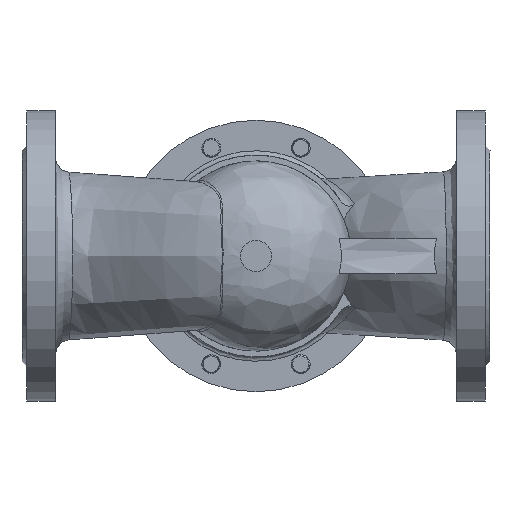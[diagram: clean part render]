
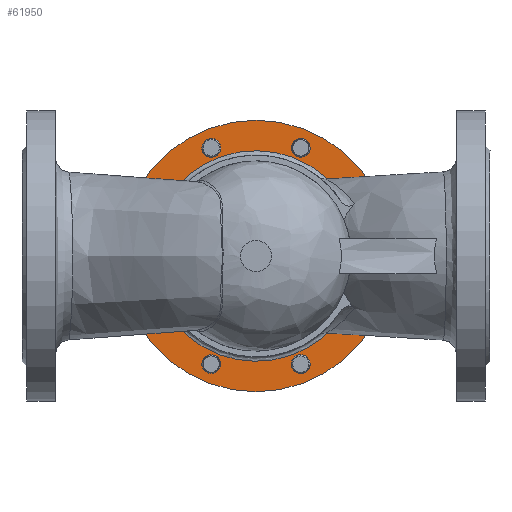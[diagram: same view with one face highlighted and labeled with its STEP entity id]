
A CAD part, front view. The second image highlights one B-rep face of the part: STEP entity #61950.
In plain terms, the highlighted planar face has unit normal (0, -1, 0).
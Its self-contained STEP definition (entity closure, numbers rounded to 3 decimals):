
#61950=ADVANCED_FACE('',(#63935,#63937,#63939,#63941,#63943,#63945,#63947,#63949,
#63951,#63953),#63955,.F.);
#63935=FACE_BOUND('',#63936,.T.);
#63936=EDGE_LOOP('',(#68013));
#63937=FACE_BOUND('',#63938,.T.);
#63938=EDGE_LOOP('',(#68014));
#63939=FACE_BOUND('',#63940,.T.);
#63940=EDGE_LOOP('',(#68015));
#63941=FACE_BOUND('',#63942,.T.);
#63942=EDGE_LOOP('',(#68016));
#63943=FACE_BOUND('',#63944,.T.);
#63944=EDGE_LOOP('',(#68017));
#63945=FACE_BOUND('',#63946,.T.);
#63946=EDGE_LOOP('',(#68018));
#63947=FACE_BOUND('',#63948,.T.);
#63948=EDGE_LOOP('',(#68019));
#63949=FACE_BOUND('',#63950,.T.);
#63950=EDGE_LOOP('',(#68020));
#63951=FACE_BOUND('',#63952,.T.);
#63952=EDGE_LOOP('',(#68021));
#63953=FACE_OUTER_BOUND('',#63954,.T.);
#63954=EDGE_LOOP('',(#68022));
#63955=PLANE('',#63956);
#63956=AXIS2_PLACEMENT_3D('',#63957,#63958,#63959);
#63957=CARTESIAN_POINT('',(0.,111.,0.));
#63958=DIRECTION('',(0.,1.,0.));
#63959=DIRECTION('',(1.,0.,0.));
#68013=ORIENTED_EDGE('',*,*,#68480,.T.);
#68014=ORIENTED_EDGE('',*,*,#68509,.T.);
#68015=ORIENTED_EDGE('',*,*,#68506,.T.);
#68016=ORIENTED_EDGE('',*,*,#68503,.T.);
#68017=ORIENTED_EDGE('',*,*,#68500,.T.);
#68018=ORIENTED_EDGE('',*,*,#68497,.T.);
#68019=ORIENTED_EDGE('',*,*,#68494,.T.);
#68020=ORIENTED_EDGE('',*,*,#68491,.T.);
#68021=ORIENTED_EDGE('',*,*,#68488,.T.);
#68022=ORIENTED_EDGE('',*,*,#68510,.F.);
#68480=EDGE_CURVE('',#68872,#68872,#68874,.T.);
#68488=EDGE_CURVE('',#68884,#68884,#68888,.T.);
#68491=EDGE_CURVE('',#68889,#68889,#68893,.T.);
#68494=EDGE_CURVE('',#68894,#68894,#68898,.T.);
#68497=EDGE_CURVE('',#68899,#68899,#68903,.T.);
#68500=EDGE_CURVE('',#68904,#68904,#68908,.T.);
#68503=EDGE_CURVE('',#68909,#68909,#68913,.T.);
#68506=EDGE_CURVE('',#68914,#68914,#68918,.T.);
#68509=EDGE_CURVE('',#68919,#68919,#68923,.T.);
#68510=EDGE_CURVE('',#68924,#68924,#68925,.T.);
#68872=VERTEX_POINT('',#70565);
#68874=CIRCLE('',#70570,90.);
#68884=VERTEX_POINT('',#70775);
#68888=CIRCLE('',#70784,7.);
#68889=VERTEX_POINT('',#70788);
#68893=CIRCLE('',#70797,7.);
#68894=VERTEX_POINT('',#70801);
#68898=CIRCLE('',#70810,7.);
#68899=VERTEX_POINT('',#70814);
#68903=CIRCLE('',#70823,7.);
#68904=VERTEX_POINT('',#70827);
#68908=CIRCLE('',#70836,7.);
#68909=VERTEX_POINT('',#70840);
#68913=CIRCLE('',#70849,7.);
#68914=VERTEX_POINT('',#70853);
#68918=CIRCLE('',#70862,7.);
#68919=VERTEX_POINT('',#70866);
#68923=CIRCLE('',#70875,7.);
#68924=VERTEX_POINT('',#70879);
#68925=CIRCLE('',#70880,116.);
#70565=CARTESIAN_POINT('',(89.99,111.,-1.295));
#70570=AXIS2_PLACEMENT_3D('',#70571,#70572,#70573);
#70571=CARTESIAN_POINT('',(0.,111.,0.));
#70572=DIRECTION('',(0.,1.,0.));
#70573=DIRECTION('',(-1.,0.,-0.));
#70775=CARTESIAN_POINT('',(-87.438,111.,33.319));
#70784=AXIS2_PLACEMENT_3D('',#70785,#70786,#70787);
#70785=CARTESIAN_POINT('',(-92.388,111.,38.268));
#70786=DIRECTION('',(0.,1.,0.));
#70787=DIRECTION('',(0.707,0.,-0.707));
#70788=CARTESIAN_POINT('',(-38.268,111.,85.388));
#70797=AXIS2_PLACEMENT_3D('',#70798,#70799,#70800);
#70798=CARTESIAN_POINT('',(-38.268,111.,92.388));
#70799=DIRECTION('',(0.,1.,0.));
#70800=DIRECTION('',(0.,0.,-1.));
#70801=CARTESIAN_POINT('',(33.319,111.,87.438));
#70810=AXIS2_PLACEMENT_3D('',#70811,#70812,#70813);
#70811=CARTESIAN_POINT('',(38.268,111.,92.388));
#70812=DIRECTION('',(0.,1.,0.));
#70813=DIRECTION('',(-0.707,0.,-0.707));
#70814=CARTESIAN_POINT('',(85.388,111.,38.268));
#70823=AXIS2_PLACEMENT_3D('',#70824,#70825,#70826);
#70824=CARTESIAN_POINT('',(92.388,111.,38.268));
#70825=DIRECTION('',(0.,1.,0.));
#70826=DIRECTION('',(-1.,0.,-0.));
#70827=CARTESIAN_POINT('',(87.438,111.,-33.319));
#70836=AXIS2_PLACEMENT_3D('',#70837,#70838,#70839);
#70837=CARTESIAN_POINT('',(92.388,111.,-38.268));
#70838=DIRECTION('',(0.,1.,0.));
#70839=DIRECTION('',(-0.707,-0.,0.707));
#70840=CARTESIAN_POINT('',(38.268,111.,-85.388));
#70849=AXIS2_PLACEMENT_3D('',#70850,#70851,#70852);
#70850=CARTESIAN_POINT('',(38.268,111.,-92.388));
#70851=DIRECTION('',(0.,1.,0.));
#70852=DIRECTION('',(0.,0.,1.));
#70853=CARTESIAN_POINT('',(-33.319,111.,-87.438));
#70862=AXIS2_PLACEMENT_3D('',#70863,#70864,#70865);
#70863=CARTESIAN_POINT('',(-38.268,111.,-92.388));
#70864=DIRECTION('',(0.,1.,0.));
#70865=DIRECTION('',(0.707,0.,0.707));
#70866=CARTESIAN_POINT('',(-85.388,111.,-38.268));
#70875=AXIS2_PLACEMENT_3D('',#70876,#70877,#70878);
#70876=CARTESIAN_POINT('',(-92.388,111.,-38.268));
#70877=DIRECTION('',(0.,1.,0.));
#70878=DIRECTION('',(1.,0.,0.));
#70879=CARTESIAN_POINT('',(116.,111.,0.));
#70880=AXIS2_PLACEMENT_3D('',#70881,#70882,#70883);
#70881=CARTESIAN_POINT('',(0.,111.,0.));
#70882=DIRECTION('',(0.,1.,0.));
#70883=DIRECTION('',(1.,0.,0.));
